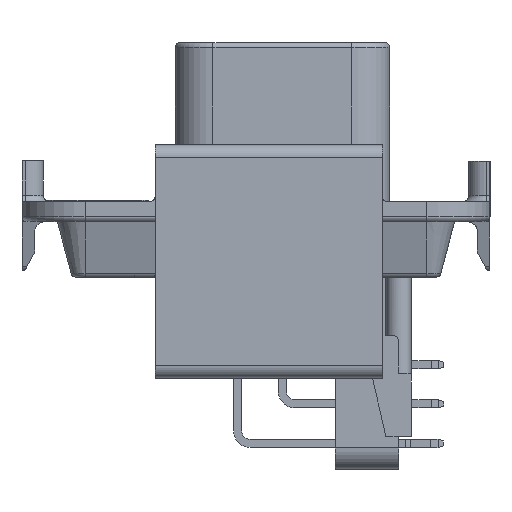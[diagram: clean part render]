
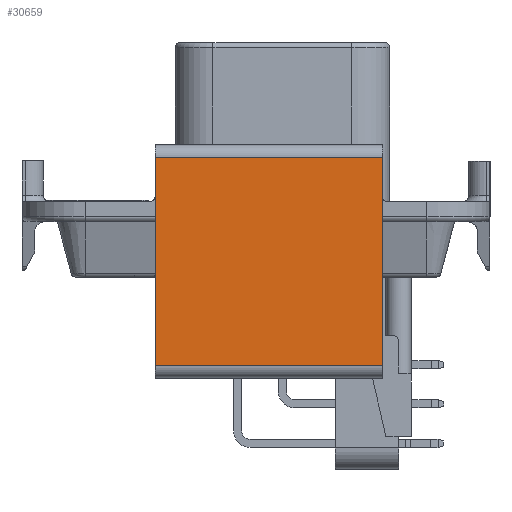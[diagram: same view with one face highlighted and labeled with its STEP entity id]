
A CAD part, left-side view. The second image highlights one B-rep face of the part: STEP entity #30659.
In plain terms, the highlighted planar face has unit normal (-1, 0, 0).
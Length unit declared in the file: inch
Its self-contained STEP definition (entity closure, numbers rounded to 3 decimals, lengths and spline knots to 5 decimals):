
#9500=DIRECTION('',(0.,0.,1.));
#9501=VECTOR('',#9500,0.825);
#9502=CARTESIAN_POINT('',(-3.7,0.5045,-0.65));
#9503=LINE('',#9502,#9501);
#10470=DIRECTION('',(0.,0.,1.));
#10471=VECTOR('',#10470,0.825);
#10472=CARTESIAN_POINT('',(-3.7,-0.3955,-0.65));
#10473=LINE('',#10472,#10471);
#10509=DIRECTION('',(0.,-1.,0.));
#10510=VECTOR('',#10509,0.9);
#10511=CARTESIAN_POINT('',(-3.7,0.5045,-0.65));
#10512=LINE('',#10511,#10510);
#10513=DIRECTION('',(0.,-1.,0.));
#10514=VECTOR('',#10513,0.9);
#10515=CARTESIAN_POINT('',(-3.7,0.5045,0.175));
#10516=LINE('',#10515,#10514);
#13769=CARTESIAN_POINT('',(-3.7,0.5045,-0.65));
#13771=VERTEX_POINT('',#13769);
#13772=CARTESIAN_POINT('',(-3.7,0.5045,0.175));
#13773=VERTEX_POINT('',#13772);
#13785=CARTESIAN_POINT('',(-3.7,-0.3955,-0.65));
#13787=VERTEX_POINT('',#13785);
#13788=CARTESIAN_POINT('',(-3.7,-0.3955,0.175));
#13789=VERTEX_POINT('',#13788);
#30647=CARTESIAN_POINT('',(-3.7,0.5045,-0.65));
#30648=DIRECTION('',(1.,0.,0.));
#30649=DIRECTION('',(0.,0.,1.));
#30650=AXIS2_PLACEMENT_3D('',#30647,#30648,#30649);
#30651=PLANE('',#30650);
#30652=ORIENTED_EDGE('',*,*,#29414,.T.);
#30654=ORIENTED_EDGE('',*,*,#30653,.T.);
#30655=ORIENTED_EDGE('',*,*,#30615,.F.);
#30656=ORIENTED_EDGE('',*,*,#30640,.F.);
#30657=EDGE_LOOP('',(#30652,#30654,#30655,#30656));
#30658=FACE_OUTER_BOUND('',#30657,.F.);
#30659=ADVANCED_FACE('',(#30658),#30651,.F.);
#29414=EDGE_CURVE('',#13771,#13773,#9503,.T.);
#30615=EDGE_CURVE('',#13787,#13789,#10473,.T.);
#30640=EDGE_CURVE('',#13771,#13787,#10512,.T.);
#30653=EDGE_CURVE('',#13773,#13789,#10516,.T.);
